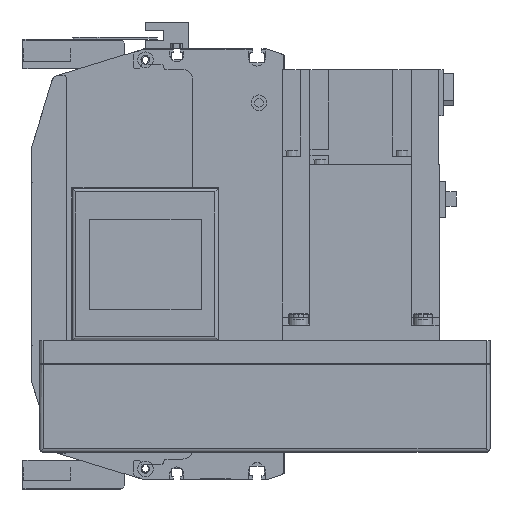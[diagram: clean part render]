
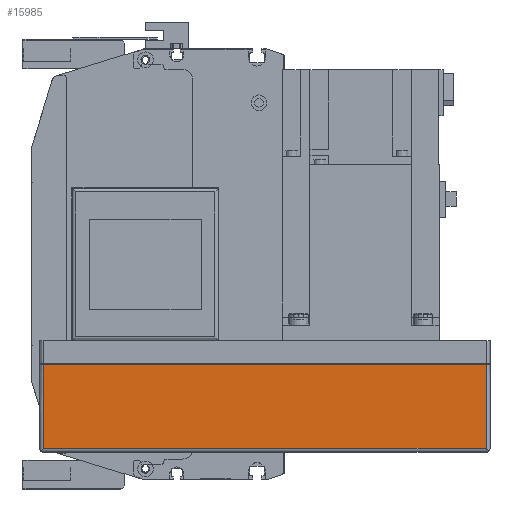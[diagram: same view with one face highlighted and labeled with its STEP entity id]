
A CAD part, left-side view. The second image highlights one B-rep face of the part: STEP entity #15985.
In plain terms, the highlighted planar face has unit normal (-1, 0, 0) as drawn and (0, 1, 0) by its records, which use the part's own axes.
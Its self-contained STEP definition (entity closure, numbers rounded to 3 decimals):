
#2700=ORIENTED_EDGE('',*,*,#6490,.F.);
#2701=ORIENTED_EDGE('',*,*,#6430,.T.);
#2702=ORIENTED_EDGE('',*,*,#6491,.F.);
#2703=ORIENTED_EDGE('',*,*,#6425,.F.);
#6425=EDGE_CURVE('',#8466,#8467,#10120,.T.);
#6430=EDGE_CURVE('',#8472,#8471,#10122,.T.);
#6490=EDGE_CURVE('',#8472,#8466,#10165,.T.);
#6491=EDGE_CURVE('',#8467,#8471,#10166,.T.);
#8466=VERTEX_POINT('',#24929);
#8467=VERTEX_POINT('',#24931);
#8471=VERTEX_POINT('',#24940);
#8472=VERTEX_POINT('',#24942);
#10120=LINE('',#24930,#11485);
#10122=LINE('',#24941,#11487);
#10165=LINE('',#25064,#11530);
#10166=LINE('',#25065,#11531);
#11485=VECTOR('',#19874,1000.);
#11487=VECTOR('',#19884,1000.);
#11530=VECTOR('',#20005,1000.);
#11531=VECTOR('',#20006,1000.);
#12704=EDGE_LOOP('',(#2700,#2701,#2702,#2703));
#14093=FACE_BOUND('',#12704,.T.);
#15320=PLANE('',#17169);
#15985=ADVANCED_FACE('',(#14093),#15320,.T.);
#17169=AXIS2_PLACEMENT_3D('',#25063,#20003,#20004);
#19874=DIRECTION('',(0.,0.,1.));
#19884=DIRECTION('',(0.,0.,1.));
#20003=DIRECTION('',(0.,1.,0.));
#20004=DIRECTION('',(0.,0.,1.));
#20005=DIRECTION('',(1.,0.,0.));
#20006=DIRECTION('',(-1.,0.,0.));
#24929=CARTESIAN_POINT('',(-2.,54.,-55.));
#24930=CARTESIAN_POINT('',(-2.,54.,-57.));
#24931=CARTESIAN_POINT('',(-2.,54.,-12.));
#24940=CARTESIAN_POINT('',(-228.,54.,-12.));
#24941=CARTESIAN_POINT('',(-228.,54.,-57.));
#24942=CARTESIAN_POINT('',(-228.,54.,-55.));
#25063=CARTESIAN_POINT('',(-2.,54.,-57.));
#25064=CARTESIAN_POINT('',(-230.,54.,-55.));
#25065=CARTESIAN_POINT('',(-2.,54.,-12.));
